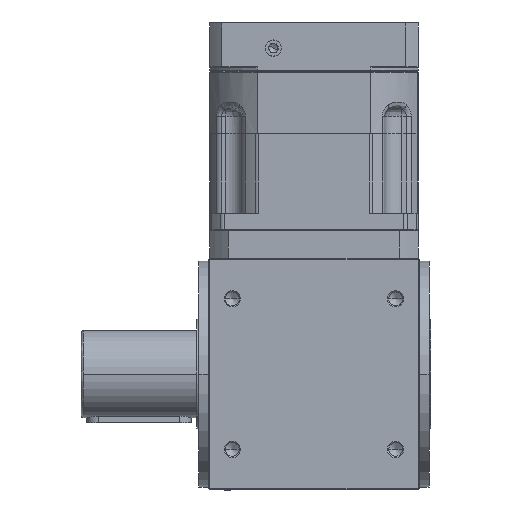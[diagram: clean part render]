
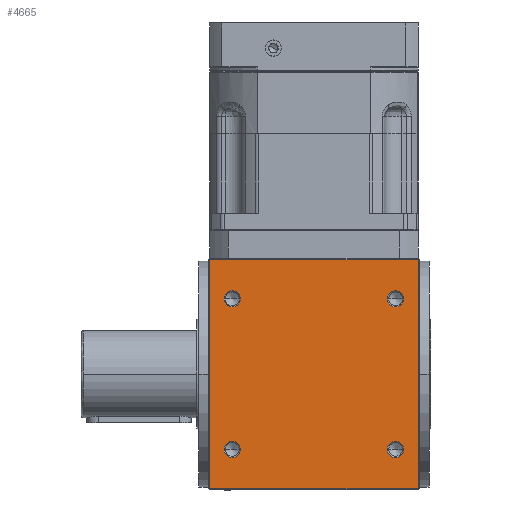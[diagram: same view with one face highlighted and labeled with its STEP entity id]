
A CAD part, front view. The second image highlights one B-rep face of the part: STEP entity #4665.
In plain terms, the highlighted planar face has unit normal (0, -1, 0) as drawn and (0, 0, -1) by its records, which use the part's own axes.
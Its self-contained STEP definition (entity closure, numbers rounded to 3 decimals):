
#1012 = CARTESIAN_POINT ( 'NONE',  ( -90., 100., -100. ) ) ;
#1804 = VECTOR ( 'NONE', #39187, 1000. ) ;
#1911 = AXIS2_PLACEMENT_3D ( 'NONE', #29947, #29743, #29710 ) ;
#4665 = ADVANCED_FACE ( 'NONE', ( #40362, #61767, #24079, #85557, #88058 ), #30856, .F. ) ;
#5433 = ORIENTED_EDGE ( 'NONE', *, *, #99103, .F. ) ;
#7288 = DIRECTION ( 'NONE',  ( -1., 0., 0. ) ) ;
#7359 = VERTEX_POINT ( 'NONE', #41775 ) ;
#8962 = VERTEX_POINT ( 'NONE', #47012 ) ;
#11457 = CARTESIAN_POINT ( 'NONE',  ( -90., 99., -100. ) ) ;
#12419 = ORIENTED_EDGE ( 'NONE', *, *, #98057, .F. ) ;
#12583 = DIRECTION ( 'NONE',  ( 0., 0., -1. ) ) ;
#13048 = VECTOR ( 'NONE', #94991, 1000. ) ;
#15061 = AXIS2_PLACEMENT_3D ( 'NONE', #103251, #55559, #7288 ) ;
#15598 = LINE ( 'NONE', #1012, #13048 ) ;
#15697 = VERTEX_POINT ( 'NONE', #82487 ) ;
#15740 = CIRCLE ( 'NONE', #36310, 7. ) ;
#16826 = EDGE_CURVE ( 'NONE', #22168, #7359, #69753, .T. ) ;
#17070 = CIRCLE ( 'NONE', #25983, 7. ) ;
#17233 = CARTESIAN_POINT ( 'NONE',  ( 91., 99., -100. ) ) ;
#20416 = ORIENTED_EDGE ( 'NONE', *, *, #98811, .F. ) ;
#21409 = DIRECTION ( 'NONE',  ( 0., 0., -1. ) ) ;
#22168 = VERTEX_POINT ( 'NONE', #73211 ) ;
#23248 = EDGE_LOOP ( 'NONE', ( #71319, #69333, #5433, #68304 ) ) ;
#23307 = LINE ( 'NONE', #31100, #1804 ) ;
#23512 = EDGE_CURVE ( 'NONE', #8962, #82453, #36051, .T. ) ;
#24079 = FACE_BOUND ( 'NONE', #97139, .T. ) ;
#24578 = ORIENTED_EDGE ( 'NONE', *, *, #97596, .F. ) ;
#24668 = EDGE_LOOP ( 'NONE', ( #64203, #94050 ) ) ;
#25904 = VERTEX_POINT ( 'NONE', #75386 ) ;
#25983 = AXIS2_PLACEMENT_3D ( 'NONE', #69556, #21409, #77657 ) ;
#27092 = CARTESIAN_POINT ( 'NONE',  ( 90., 99., -100. ) ) ;
#28101 = VERTEX_POINT ( 'NONE', #73918 ) ;
#28167 = CARTESIAN_POINT ( 'NONE',  ( 70.5, 65., -100. ) ) ;
#29710 = DIRECTION ( 'NONE',  ( 0., -1., 0. ) ) ;
#29743 = DIRECTION ( 'NONE',  ( 0., 0., 1. ) ) ;
#29928 = CARTESIAN_POINT ( 'NONE',  ( -70.5, -65., -100. ) ) ;
#29947 = CARTESIAN_POINT ( 'NONE',  ( 91., 100., -100. ) ) ;
#30856 = PLANE ( 'NONE',  #1911 ) ;
#31100 = CARTESIAN_POINT ( 'NONE',  ( 91., -99., -100. ) ) ;
#35471 = CARTESIAN_POINT ( 'NONE',  ( -70.5, -72., -100. ) ) ;
#36051 = CIRCLE ( 'NONE', #15061, 7. ) ;
#36224 = DIRECTION ( 'NONE',  ( -1., 0., 0. ) ) ;
#36310 = AXIS2_PLACEMENT_3D ( 'NONE', #28167, #84263, #36224 ) ;
#36424 = DIRECTION ( 'NONE',  ( 0., 0., -1. ) ) ;
#37027 = LINE ( 'NONE', #17233, #98283 ) ;
#38016 = DIRECTION ( 'NONE',  ( 0., 1., 0. ) ) ;
#39187 = DIRECTION ( 'NONE',  ( 1., 0., 0. ) ) ;
#40362 = FACE_OUTER_BOUND ( 'NONE', #23248, .T. ) ;
#41215 = VERTEX_POINT ( 'NONE', #77539 ) ;
#41775 = CARTESIAN_POINT ( 'NONE',  ( 70.5, -58., -100. ) ) ;
#45514 = CIRCLE ( 'NONE', #56959, 7. ) ;
#46769 = AXIS2_PLACEMENT_3D ( 'NONE', #48027, #103756, #56076 ) ;
#47012 = CARTESIAN_POINT ( 'NONE',  ( -63.5, 65., -100. ) ) ;
#47229 = CARTESIAN_POINT ( 'NONE',  ( -70.5, -58., -100. ) ) ;
#47693 = EDGE_CURVE ( 'NONE', #56012, #66782, #45514, .T. ) ;
#48027 = CARTESIAN_POINT ( 'NONE',  ( 70.5, 65., -100. ) ) ;
#48672 = CARTESIAN_POINT ( 'NONE',  ( 90., 100., -100. ) ) ;
#50427 = CIRCLE ( 'NONE', #71521, 7. ) ;
#53293 = ORIENTED_EDGE ( 'NONE', *, *, #89077, .F. ) ;
#55559 = DIRECTION ( 'NONE',  ( 0., 0., -1. ) ) ;
#56012 = VERTEX_POINT ( 'NONE', #35471 ) ;
#56076 = DIRECTION ( 'NONE',  ( -1., 0., 0. ) ) ;
#56959 = AXIS2_PLACEMENT_3D ( 'NONE', #29928, #86045, #38016 ) ;
#60786 = CARTESIAN_POINT ( 'NONE',  ( -70.5, 65., -100. ) ) ;
#61747 = ORIENTED_EDGE ( 'NONE', *, *, #16826, .F. ) ;
#61767 = FACE_BOUND ( 'NONE', #74810, .T. ) ;
#64203 = ORIENTED_EDGE ( 'NONE', *, *, #97445, .F. ) ;
#64740 = AXIS2_PLACEMENT_3D ( 'NONE', #95348, #95244, #95001 ) ;
#65489 = CIRCLE ( 'NONE', #90847, 7. ) ;
#66206 = LINE ( 'NONE', #48672, #87423 ) ;
#66782 = VERTEX_POINT ( 'NONE', #47229 ) ;
#67726 = ORIENTED_EDGE ( 'NONE', *, *, #23512, .F. ) ;
#68304 = ORIENTED_EDGE ( 'NONE', *, *, #99721, .F. ) ;
#68890 = DIRECTION ( 'NONE',  ( -1., 0., 0. ) ) ;
#69333 = ORIENTED_EDGE ( 'NONE', *, *, #99235, .F. ) ;
#69556 = CARTESIAN_POINT ( 'NONE',  ( 70.5, -65., -100. ) ) ;
#69753 = CIRCLE ( 'NONE', #64740, 7. ) ;
#71319 = ORIENTED_EDGE ( 'NONE', *, *, #99708, .F. ) ;
#71521 = AXIS2_PLACEMENT_3D ( 'NONE', #84446, #36424, #92402 ) ;
#73211 = CARTESIAN_POINT ( 'NONE',  ( 70.5, -72., -100. ) ) ;
#73551 = DIRECTION ( 'NONE',  ( -1., 0., 0. ) ) ;
#73918 = CARTESIAN_POINT ( 'NONE',  ( -90., -99., -100. ) ) ;
#74594 = VERTEX_POINT ( 'NONE', #11457 ) ;
#74810 = EDGE_LOOP ( 'NONE', ( #20416, #61747 ) ) ;
#74898 = EDGE_LOOP ( 'NONE', ( #24578, #67726 ) ) ;
#75386 = CARTESIAN_POINT ( 'NONE',  ( 90., -99., -100. ) ) ;
#76569 = CIRCLE ( 'NONE', #46769, 7. ) ;
#77539 = CARTESIAN_POINT ( 'NONE',  ( 77.5, 65., -100. ) ) ;
#77657 = DIRECTION ( 'NONE',  ( 0., 1., 0. ) ) ;
#82453 = VERTEX_POINT ( 'NONE', #92264 ) ;
#82487 = CARTESIAN_POINT ( 'NONE',  ( 63.5, 65., -100. ) ) ;
#84263 = DIRECTION ( 'NONE',  ( 0., 0., -1. ) ) ;
#84446 = CARTESIAN_POINT ( 'NONE',  ( -70.5, -65., -100. ) ) ;
#85557 = FACE_BOUND ( 'NONE', #74898, .T. ) ;
#86045 = DIRECTION ( 'NONE',  ( 0., 0., -1. ) ) ;
#87423 = VECTOR ( 'NONE', #96511, 1000. ) ;
#88058 = FACE_BOUND ( 'NONE', #24668, .T. ) ;
#89077 = EDGE_CURVE ( 'NONE', #41215, #15697, #15740, .T. ) ;
#90847 = AXIS2_PLACEMENT_3D ( 'NONE', #60786, #12583, #68890 ) ;
#92264 = CARTESIAN_POINT ( 'NONE',  ( -77.5, 65., -100. ) ) ;
#92402 = DIRECTION ( 'NONE',  ( 0., 1., 0. ) ) ;
#94050 = ORIENTED_EDGE ( 'NONE', *, *, #47693, .F. ) ;
#94991 = DIRECTION ( 'NONE',  ( 0., -1., 0. ) ) ;
#95001 = DIRECTION ( 'NONE',  ( 0., 1., 0. ) ) ;
#95244 = DIRECTION ( 'NONE',  ( 0., 0., -1. ) ) ;
#95348 = CARTESIAN_POINT ( 'NONE',  ( 70.5, -65., -100. ) ) ;
#96511 = DIRECTION ( 'NONE',  ( 0., 1., 0. ) ) ;
#97139 = EDGE_LOOP ( 'NONE', ( #12419, #53293 ) ) ;
#97445 = EDGE_CURVE ( 'NONE', #66782, #56012, #50427, .T. ) ;
#97596 = EDGE_CURVE ( 'NONE', #82453, #8962, #65489, .T. ) ;
#98057 = EDGE_CURVE ( 'NONE', #15697, #41215, #76569, .T. ) ;
#98283 = VECTOR ( 'NONE', #73551, 1000. ) ;
#98811 = EDGE_CURVE ( 'NONE', #7359, #22168, #17070, .T. ) ;
#99103 = EDGE_CURVE ( 'NONE', #28101, #25904, #23307, .T. ) ;
#99235 = EDGE_CURVE ( 'NONE', #25904, #103343, #66206, .T. ) ;
#99708 = EDGE_CURVE ( 'NONE', #103343, #74594, #37027, .T. ) ;
#99721 = EDGE_CURVE ( 'NONE', #74594, #28101, #15598, .T. ) ;
#103251 = CARTESIAN_POINT ( 'NONE',  ( -70.5, 65., -100. ) ) ;
#103343 = VERTEX_POINT ( 'NONE', #27092 ) ;
#103756 = DIRECTION ( 'NONE',  ( 0., 0., -1. ) ) ;
